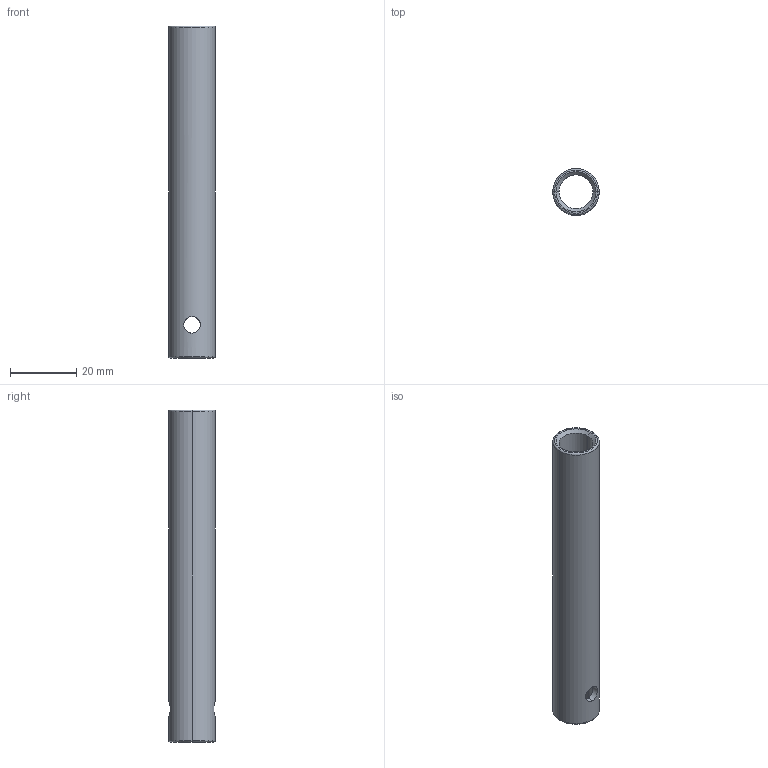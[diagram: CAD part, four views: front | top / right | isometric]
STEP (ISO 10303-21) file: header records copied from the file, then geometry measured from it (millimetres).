
FILE_DESCRIPTION (( 'STEP AP214' ), '1' );
FILE_NAME ('SMBY14-100.STEP', '2023-01-05T08:41:11', ( 'Windows User' ), ( 'P R C' ), 'SwSTEP 2.0', 'SolidWorks 2018', '' );
FILE_SCHEMA (( 'AUTOMOTIVE_DESIGN' ));
Length unit declared in the file: millimetre
Products named in the file (1): SMBY14-100
Bounding box: 14 x 14 x 100 mm (x, y, z)
Volume: 6703.9 mm3; surface area: 7771.8 mm2
Topology: 1 solids, 1 shells, 19 faces, 42 edges, 26 vertices
Faces by surface type: cylinder 10, torus 4, plane 3, cone 2
Entity records: 838 total; most frequent: CARTESIAN_POINT 344, DIRECTION 96, ORIENTED_EDGE 84, EDGE_CURVE 42, AXIS2_PLACEMENT_3D 42, VERTEX_POINT 26, EDGE_LOOP 26, CIRCLE 22
